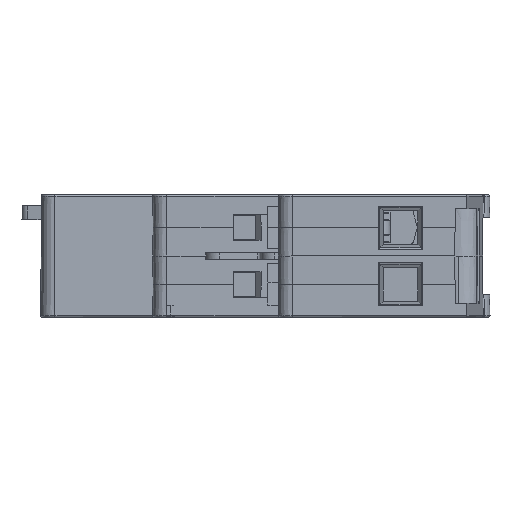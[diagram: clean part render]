
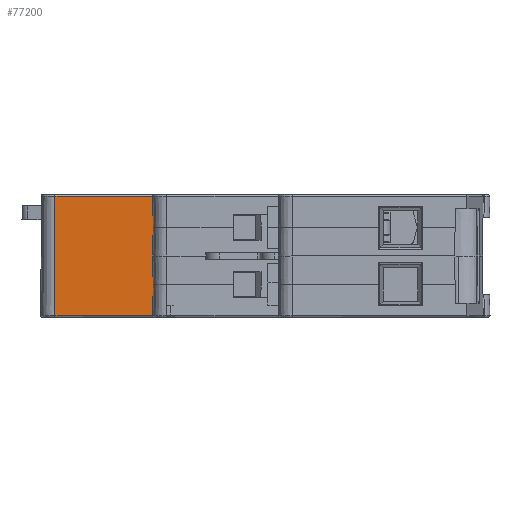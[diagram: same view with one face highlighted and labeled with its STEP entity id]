
A CAD part, left-side view. The second image highlights one B-rep face of the part: STEP entity #77200.
In plain terms, the highlighted planar face has unit normal (-1, 0, 0.009).
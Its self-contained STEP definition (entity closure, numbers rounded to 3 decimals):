
#371 = CARTESIAN_POINT ( 'NONE',  ( -22.575, 43.598, -8.598 ) ) ;
#18572 = LINE ( 'NONE', #18591, #60612 ) ;
#18591 = CARTESIAN_POINT ( 'NONE',  ( -22.464, 43.564, 4.1 ) ) ;
#18594 = LINE ( 'NONE', #18608, #60625 ) ;
#18596 = DIRECTION ( 'NONE',  ( -0.009, 0.009, -1. ) ) ;
#18601 = LINE ( 'NONE', #18624, #60627 ) ;
#18608 = CARTESIAN_POINT ( 'NONE',  ( -22.5, 43.6, 0. ) ) ;
#18610 = DIRECTION ( 'NONE',  ( -0.009, -0.009, -1. ) ) ;
#18612 = LINE ( 'NONE', #18613, #60629 ) ;
#18613 = CARTESIAN_POINT ( 'NONE',  ( -22.536, 34.682, -4.1 ) ) ;
#18614 = DIRECTION ( 'NONE',  ( 0., -1., 0. ) ) ;
#18624 = CARTESIAN_POINT ( 'NONE',  ( -22.536, 43.559, -4.1 ) ) ;
#18627 = DIRECTION ( 'NONE',  ( -0.009, 0.009, -1. ) ) ;
#18629 = LINE ( 'NONE', #18632, #60636 ) ;
#18632 = CARTESIAN_POINT ( 'NONE',  ( -22.575, 34.682, -8.598 ) ) ;
#18634 = DIRECTION ( 'NONE',  ( 0., 1., 0. ) ) ;
#18682 = LINE ( 'NONE', #18685, #60640 ) ;
#18685 = CARTESIAN_POINT ( 'NONE',  ( -22.464, 34.682, 4.1 ) ) ;
#18687 = DIRECTION ( 'NONE',  ( 0., 1., 0. ) ) ;
#20377 = VERTEX_POINT ( 'NONE', #90567 ) ;
#20472 = VERTEX_POINT ( 'NONE', #90604 ) ;
#20503 = VERTEX_POINT ( 'NONE', #90616 ) ;
#21488 = LINE ( 'NONE', #21523, #60899 ) ;
#21523 = CARTESIAN_POINT ( 'NONE',  ( -22.5, 57.7, 0. ) ) ;
#21527 = DIRECTION ( 'NONE',  ( 0.009, 0., 1. ) ) ;
#21530 = CARTESIAN_POINT ( 'NONE',  ( -22.425, 43.598, 8.601 ) ) ;
#21531 = CARTESIAN_POINT ( 'NONE',  ( -22.425, 43.598, 8.602 ) ) ;
#21541 = LINE ( 'NONE', #21542, #60907 ) ;
#21542 = CARTESIAN_POINT ( 'NONE',  ( -22.425, 43.598, 8.598 ) ) ;
#21543 = DIRECTION ( 'NONE',  ( -0.009, -0.009, -1. ) ) ;
#21545 = LINE ( 'NONE', #21549, #60903 ) ;
#21547 = CARTESIAN_POINT ( 'NONE',  ( -22.425, 43.598, 8.599 ) ) ;
#21548 = CARTESIAN_POINT ( 'NONE',  ( -22.425, 43.598, 8.598 ) ) ;
#21549 = CARTESIAN_POINT ( 'NONE',  ( -22.425, 34.682, 8.602 ) ) ;
#21551 = DIRECTION ( 'NONE',  ( 0., -1., 0. ) ) ;
#21798 = B_SPLINE_CURVE_WITH_KNOTS ( 'NONE', 3,
 ( #21531, #21530, #21547, #21548 ),
 .UNSPECIFIED., .F., .F.,
 ( 4, 4 ),
 ( 0., 1. ),
 .UNSPECIFIED. ) ;
#23334 = CARTESIAN_POINT ( 'NONE',  ( -22.5, 43.6, 0. ) ) ;
#23390 = CARTESIAN_POINT ( 'NONE',  ( -22.464, 43.564, 4.1 ) ) ;
#23399 = CARTESIAN_POINT ( 'NONE',  ( -22.536, 43.559, -4.1 ) ) ;
#23414 = CARTESIAN_POINT ( 'NONE',  ( -22.536, 43.564, -4.1 ) ) ;
#23467 = CARTESIAN_POINT ( 'NONE',  ( -22.464, 43.559, 4.1 ) ) ;
#32840 = VERTEX_POINT ( 'NONE', #90658 ) ;
#35931 = EDGE_LOOP ( 'NONE', ( #71988, #71989, #71990, #71991, #71992, #71993, #71994, #71995, #71996, #71997 ) ) ;
#36864 = VERTEX_POINT ( 'NONE', #371 ) ;
#57484 = EDGE_CURVE ( 'NONE', #61604, #61580, #18572, .T. ) ;
#57491 = EDGE_CURVE ( 'NONE', #61580, #61628, #18594, .T. ) ;
#57494 = EDGE_CURVE ( 'NONE', #61628, #61613, #18612, .T. ) ;
#57498 = EDGE_CURVE ( 'NONE', #61613, #36864, #18601, .T. ) ;
#57501 = EDGE_CURVE ( 'NONE', #36864, #32840, #18629, .T. ) ;
#57512 = EDGE_CURVE ( 'NONE', #61681, #61604, #18682, .T. ) ;
#57996 = EDGE_CURVE ( 'NONE', #32840, #20472, #21488, .T. ) ;
#58009 = EDGE_CURVE ( 'NONE', #20377, #61681, #21541, .T. ) ;
#58013 = EDGE_CURVE ( 'NONE', #20503, #20377, #21798, .T. ) ;
#58017 = EDGE_CURVE ( 'NONE', #20472, #20503, #21545, .T. ) ;
#60612 = VECTOR ( 'NONE', #18596, 1000. ) ;
#60625 = VECTOR ( 'NONE', #18610, 1000. ) ;
#60627 = VECTOR ( 'NONE', #18627, 1000. ) ;
#60629 = VECTOR ( 'NONE', #18614, 1000. ) ;
#60636 = VECTOR ( 'NONE', #18634, 1000. ) ;
#60640 = VECTOR ( 'NONE', #18687, 1000. ) ;
#60899 = VECTOR ( 'NONE', #21527, 1000. ) ;
#60903 = VECTOR ( 'NONE', #21551, 1000. ) ;
#60907 = VECTOR ( 'NONE', #21543, 1000. ) ;
#61580 = VERTEX_POINT ( 'NONE', #23334 ) ;
#61604 = VERTEX_POINT ( 'NONE', #23390 ) ;
#61613 = VERTEX_POINT ( 'NONE', #23399 ) ;
#61628 = VERTEX_POINT ( 'NONE', #23414 ) ;
#61681 = VERTEX_POINT ( 'NONE', #23467 ) ;
#71988 = ORIENTED_EDGE ( 'NONE', *, *, #57501, .F. ) ;
#71989 = ORIENTED_EDGE ( 'NONE', *, *, #57498, .F. ) ;
#71990 = ORIENTED_EDGE ( 'NONE', *, *, #57494, .F. ) ;
#71991 = ORIENTED_EDGE ( 'NONE', *, *, #57491, .F. ) ;
#71992 = ORIENTED_EDGE ( 'NONE', *, *, #57484, .F. ) ;
#71993 = ORIENTED_EDGE ( 'NONE', *, *, #57512, .F. ) ;
#71994 = ORIENTED_EDGE ( 'NONE', *, *, #58009, .F. ) ;
#71995 = ORIENTED_EDGE ( 'NONE', *, *, #58013, .F. ) ;
#71996 = ORIENTED_EDGE ( 'NONE', *, *, #58017, .F. ) ;
#71997 = ORIENTED_EDGE ( 'NONE', *, *, #57996, .F. ) ;
#77200 = ADVANCED_FACE ( 'NONE', ( #83620 ), #83569, .F. ) ;
#79234 = AXIS2_PLACEMENT_3D ( 'NONE', #83656, #83657, #83658 ) ;
#83569 = PLANE ( 'NONE',  #79234 ) ;
#83620 = FACE_OUTER_BOUND ( 'NONE', #35931, .T. ) ;
#83656 = CARTESIAN_POINT ( 'NONE',  ( -22.5, 34.682, 0. ) ) ;
#83657 = DIRECTION ( 'NONE',  ( 1., 0., -0.009 ) ) ;
#83658 = DIRECTION ( 'NONE',  ( -0.009, 0., -1. ) ) ;
#90567 = CARTESIAN_POINT ( 'NONE',  ( -22.425, 43.598, 8.598 ) ) ;
#90604 = CARTESIAN_POINT ( 'NONE',  ( -22.425, 57.7, 8.602 ) ) ;
#90616 = CARTESIAN_POINT ( 'NONE',  ( -22.425, 43.598, 8.602 ) ) ;
#90658 = CARTESIAN_POINT ( 'NONE',  ( -22.575, 57.7, -8.598 ) ) ;
